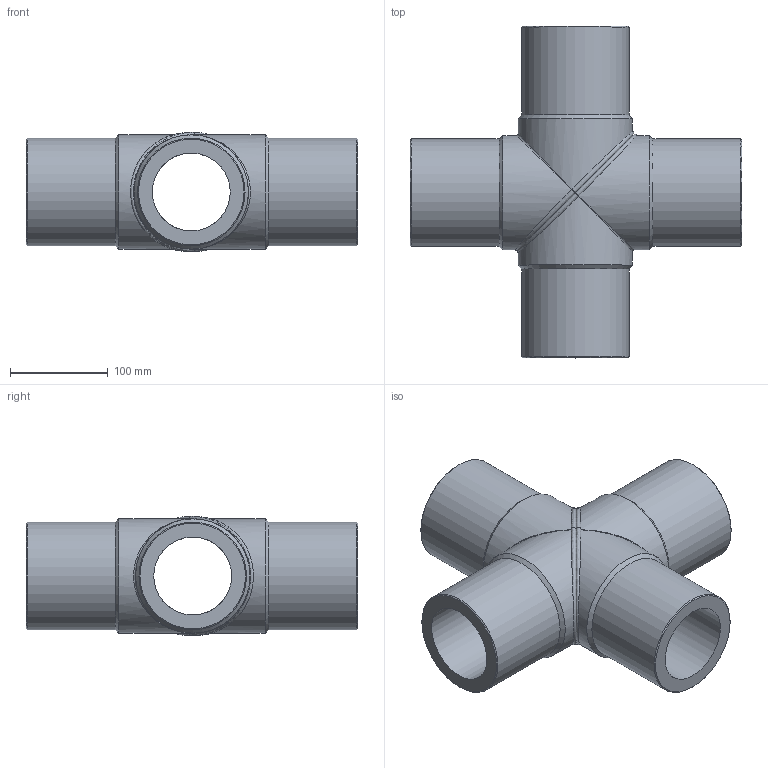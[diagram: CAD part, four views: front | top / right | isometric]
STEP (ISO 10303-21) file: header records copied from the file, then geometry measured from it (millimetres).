
FILE_DESCRIPTION(/* description */ ('Unknown'),/* implementation_level */ '2;1');
FILE_NAME(/* name */ 'CRP110H',/* time_stamp */ '2022-07-08T15:45:28+02:00',/* author */ ('Unknown'),/* organization */ ('Unknown'),/* preprocessor_version */ 'ST-DEVELOPER v18.102',/* originating_system */ 'Solid Edge',/* authorisation */ 'Unknown');
FILE_SCHEMA (('AUTOMOTIVE_DESIGN {1 0 10303 214 3 1 1}'));
Length unit declared in the file: millimetre
Products named in the file (3): CRP110H; CRP110H_mir
Assembly tree (2 placements, depth 2):
  CRP110H
    CRP110H
    CRP110H_mir
Bounding box: 339.5 x 339.5 x 121.99 mm (x, y, z)
Volume: 2715036.5 mm3; surface area: 367920.2 mm2
Topology: 2 solids, 2 shells, 32 faces, 90 edges, 60 vertices
Faces by surface type: cylinder 12, cone 8, plane 6, bspline 6
Full cylindrical faces by diameter (mm): 79.8 x4, 110 x4, 117 x4
Entity records: 3005 total; most frequent: CARTESIAN_POINT 2277, DIRECTION 126, ORIENTED_EDGE 120, AXIS2_PLACEMENT_3D 63, EDGE_CURVE 60, EDGE_LOOP 58, FACE_BOUND 58, VERTEX_POINT 50
